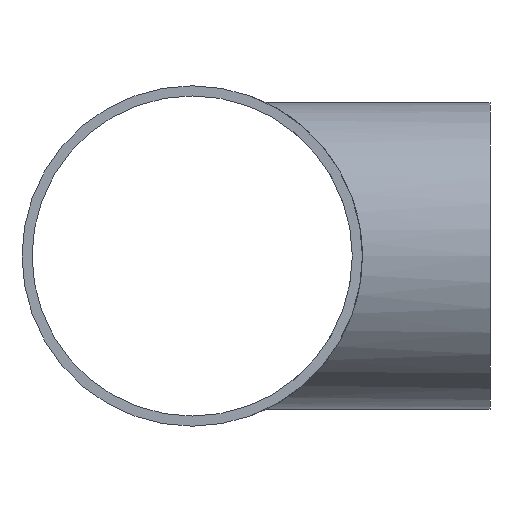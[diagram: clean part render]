
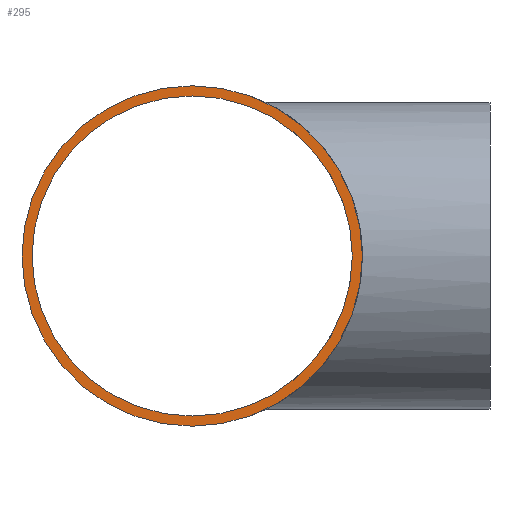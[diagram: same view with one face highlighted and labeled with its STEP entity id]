
A CAD part, left-side view. The second image highlights one B-rep face of the part: STEP entity #295.
In plain terms, the highlighted planar face has unit normal (-1, 0, 0).
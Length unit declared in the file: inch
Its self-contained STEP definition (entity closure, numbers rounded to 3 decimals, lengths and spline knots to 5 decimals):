
#79=FACE_BOUND('',#114,.T.);
#92=FACE_OUTER_BOUND('',#113,.T.);
#113=EDGE_LOOP('',(#242));
#114=EDGE_LOOP('',(#243,#244));
#135=CIRCLE('',#343,9.407);
#136=CIRCLE('',#344,9.407);
#137=CIRCLE('',#346,10.);
#157=VERTEX_POINT('',#642);
#158=VERTEX_POINT('',#644);
#161=VERTEX_POINT('',#774);
#186=EDGE_CURVE('',#158,#157,#135,.T.);
#187=EDGE_CURVE('',#157,#158,#136,.T.);
#190=EDGE_CURVE('',#161,#161,#137,.T.);
#242=ORIENTED_EDGE('',*,*,#190,.T.);
#243=ORIENTED_EDGE('',*,*,#186,.T.);
#244=ORIENTED_EDGE('',*,*,#187,.T.);
#265=PLANE('',#347);
#295=ADVANCED_FACE('',(#92,#79),#265,.F.);
#343=AXIS2_PLACEMENT_3D('',#645,#421,#422);
#344=AXIS2_PLACEMENT_3D('',#646,#423,#424);
#346=AXIS2_PLACEMENT_3D('',#775,#427,#428);
#347=AXIS2_PLACEMENT_3D('',#777,#430,#431);
#421=DIRECTION('center_axis',(1.,0.,0.));
#422=DIRECTION('ref_axis',(0.,-1.,0.));
#423=DIRECTION('center_axis',(1.,0.,0.));
#424=DIRECTION('ref_axis',(0.,-1.,0.));
#427=DIRECTION('center_axis',(-1.,0.,0.));
#428=DIRECTION('ref_axis',(0.,-1.,0.));
#430=DIRECTION('center_axis',(1.,0.,0.));
#431=DIRECTION('ref_axis',(0.,0.,-1.));
#642=CARTESIAN_POINT('',(-18.,9.407,0.));
#644=CARTESIAN_POINT('',(-18.,-9.407,0.));
#645=CARTESIAN_POINT('Origin',(-18.,0.,0.));
#646=CARTESIAN_POINT('Origin',(-18.,0.,0.));
#774=CARTESIAN_POINT('',(-18.,10.,0.));
#775=CARTESIAN_POINT('Origin',(-18.,0.,0.));
#777=CARTESIAN_POINT('Origin',(-18.,0.,0.));
